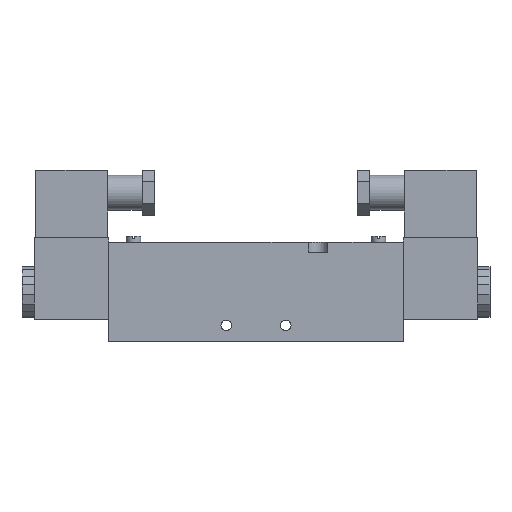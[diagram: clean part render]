
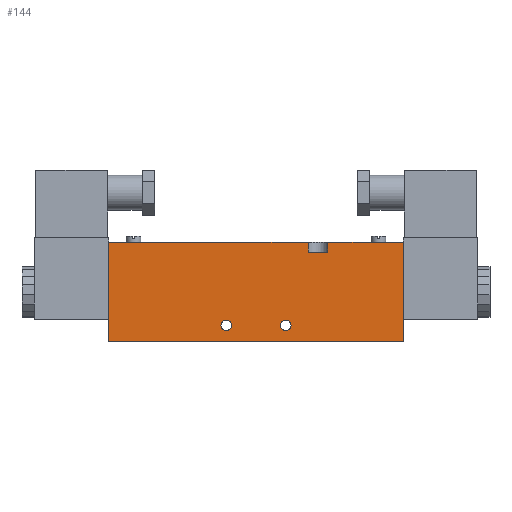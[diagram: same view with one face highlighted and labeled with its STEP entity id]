
A CAD part, top view. The second image highlights one B-rep face of the part: STEP entity #144.
In plain terms, the highlighted planar face has unit normal (0, 0, 1).
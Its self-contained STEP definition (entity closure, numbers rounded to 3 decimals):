
#144=ADVANCED_FACE('',(#530,#532,#534),#536,.T.);
#530=FACE_BOUND('',#531,.T.);
#531=EDGE_LOOP('',(#1400,#1401,#1402,#1403,#1404,#1405,#1406,#1407));
#532=FACE_BOUND('',#533,.T.);
#533=EDGE_LOOP('',(#1408));
#534=FACE_BOUND('',#535,.T.);
#535=EDGE_LOOP('',(#1409));
#536=PLANE('',#537);
#537=AXIS2_PLACEMENT_3D('',#538,#539,#540);
#538=CARTESIAN_POINT('',(-59.4,20.,13.5));
#539=DIRECTION('',(0.,0.,1.));
#540=DIRECTION('',(0.,-1.,0.));
#1400=ORIENTED_EDGE('',*,*,#1948,.T.);
#1401=ORIENTED_EDGE('',*,*,#1949,.F.);
#1402=ORIENTED_EDGE('',*,*,#1950,.T.);
#1403=ORIENTED_EDGE('',*,*,#1951,.T.);
#1404=ORIENTED_EDGE('',*,*,#1952,.F.);
#1405=ORIENTED_EDGE('',*,*,#1953,.F.);
#1406=ORIENTED_EDGE('',*,*,#1954,.T.);
#1407=ORIENTED_EDGE('',*,*,#1955,.T.);
#1408=ORIENTED_EDGE('',*,*,#1956,.T.);
#1409=ORIENTED_EDGE('',*,*,#1957,.T.);
#1948=EDGE_CURVE('',#2222,#2223,#2224,.F.);
#1949=EDGE_CURVE('',#2225,#2223,#2226,.T.);
#1950=EDGE_CURVE('',#2225,#2227,#2228,.T.);
#1951=EDGE_CURVE('',#2227,#2229,#2230,.T.);
#1952=EDGE_CURVE('',#2231,#2229,#2232,.T.);
#1953=EDGE_CURVE('',#2233,#2231,#2234,.T.);
#1954=EDGE_CURVE('',#2233,#2235,#2236,.F.);
#1955=EDGE_CURVE('',#2235,#2222,#2237,.T.);
#1956=EDGE_CURVE('',#2238,#2238,#2239,.F.);
#1957=EDGE_CURVE('',#2240,#2240,#2241,.F.);
#2222=VERTEX_POINT('',#2686);
#2223=VERTEX_POINT('',#2687);
#2224=LINE('',#2688,#2689);
#2225=VERTEX_POINT('',#2691);
#2226=LINE('',#2692,#2693);
#2227=VERTEX_POINT('',#2695);
#2228=LINE('',#2696,#2697);
#2229=VERTEX_POINT('',#2699);
#2230=LINE('',#2700,#2701);
#2231=VERTEX_POINT('',#2703);
#2232=LINE('',#2704,#2705);
#2233=VERTEX_POINT('',#2707);
#2234=LINE('',#2708,#2709);
#2235=VERTEX_POINT('',#2711);
#2236=LINE('',#2712,#2713);
#2237=LINE('',#2715,#2716);
#2238=VERTEX_POINT('',#2718);
#2239=CIRCLE('',#2719,2.15);
#2240=VERTEX_POINT('',#2723);
#2241=CIRCLE('',#2724,2.15);
#2686=CARTESIAN_POINT('',(21.,16.,13.5));
#2687=CARTESIAN_POINT('',(21.,20.,13.5));
#2688=CARTESIAN_POINT('',(21.,20.,13.5));
#2689=VECTOR('',#2690,1.);
#2690=DIRECTION('',(0.,-1.,0.));
#2691=CARTESIAN_POINT('',(-59.4,20.,13.5));
#2692=CARTESIAN_POINT('',(-59.4,20.,13.5));
#2693=VECTOR('',#2694,1.);
#2694=DIRECTION('',(1.,0.,0.));
#2695=CARTESIAN_POINT('',(-59.4,-20.,13.5));
#2696=CARTESIAN_POINT('',(-59.4,20.,13.5));
#2697=VECTOR('',#2698,1.);
#2698=DIRECTION('',(0.,-1.,0.));
#2699=CARTESIAN_POINT('',(59.4,-20.,13.5));
#2700=CARTESIAN_POINT('',(-59.4,-20.,13.5));
#2701=VECTOR('',#2702,1.);
#2702=DIRECTION('',(1.,0.,0.));
#2703=CARTESIAN_POINT('',(59.4,20.,13.5));
#2704=CARTESIAN_POINT('',(59.4,20.,13.5));
#2705=VECTOR('',#2706,1.);
#2706=DIRECTION('',(0.,-1.,0.));
#2707=CARTESIAN_POINT('',(29.,20.,13.5));
#2708=CARTESIAN_POINT('',(29.,20.,13.5));
#2709=VECTOR('',#2710,1.);
#2710=DIRECTION('',(1.,0.,0.));
#2711=CARTESIAN_POINT('',(29.,16.,13.5));
#2712=CARTESIAN_POINT('',(29.,16.,13.5));
#2713=VECTOR('',#2714,1.);
#2714=DIRECTION('',(0.,1.,0.));
#2715=CARTESIAN_POINT('',(29.,16.,13.5));
#2716=VECTOR('',#2717,1.);
#2717=DIRECTION('',(-1.,0.,0.));
#2718=CARTESIAN_POINT('',(14.15,-13.5,13.5));
#2719=AXIS2_PLACEMENT_3D('',#2720,#2721,#2722);
#2720=CARTESIAN_POINT('',(12.,-13.5,13.5));
#2721=DIRECTION('',(0.,0.,1.));
#2722=DIRECTION('',(1.,0.,0.));
#2723=CARTESIAN_POINT('',(-9.85,-13.5,13.5));
#2724=AXIS2_PLACEMENT_3D('',#2725,#2726,#2727);
#2725=CARTESIAN_POINT('',(-12.,-13.5,13.5));
#2726=DIRECTION('',(0.,0.,1.));
#2727=DIRECTION('',(1.,0.,0.));
